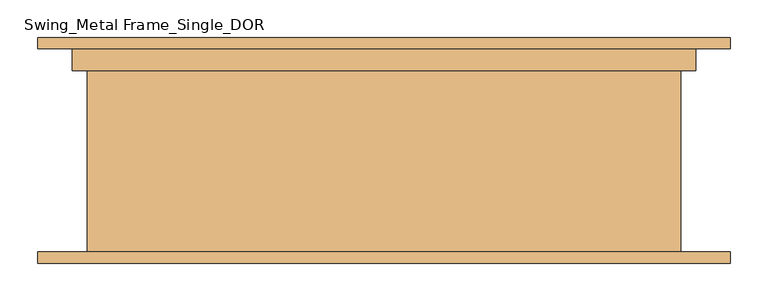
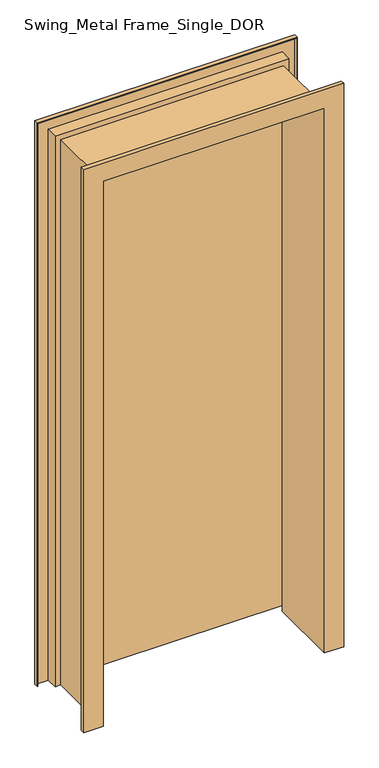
"""IFC4 building model written with IfcOpenShell, lengths in millimetres: door geometry, Swing_Metal Frame_Single_DOR : 2040h x 820 (2110x920 STUD)."""

from ifc_helpers import new_model, si_unit, frame, origin, place, context, project, spatial, polyline, outline, extrude, faceted_brep, source, transform, mapped, element, save


def swing_metal_frame_single_dor_e555ebe5(model_context):
    return source(origin(), model_context, "Body", "SolidModel", [
        extrude(outline(polyline([(410.0, 150.0), (410.0, 110.0), (-410.0, 110.0), (-410.0, 150.0), (410.0, 150.0)])), frame((0.0, 0.0, 20.0), z_axis=(0.0, 0.0, 1.0), x_axis=(1.0, 0.0, 0.0)), (0.0, 0.0, 1.0), 2040.0),
        faceted_brep([(-460.0, -150.0, 0.0), (-460.0, -135.0, 0.0), (-458.0, -135.0, 0.0), (-458.0, -148.0, 0.0), (-394.0, -148.0, 0.0), (-394.0, 106.0, 0.0), (-414.0, 106.0, 0.0), (-414.0, 148.0, 0.0), (-458.0, 148.0, 0.0), (-458.0, 135.0, 0.0), (-460.0, 135.0, 0.0), (-460.0, 150.0, 0.0), (-412.0, 150.0, 0.0), (-412.0, 108.0, 0.0), (-392.0, 108.0, 0.0), (-392.0, -150.0, 0.0), (-460.0, -150.0, 2110.0), (-460.0, -135.0, 2110.0), (460.0, -135.0, 2110.0), (460.0, -135.0, 0.0), (458.0, -135.0, 0.0), (458.0, -135.0, 2108.0), (-458.0, -135.0, 2108.0), (-458.0, -148.0, 2108.0), (458.0, -148.0, 2108.0), (458.0, -148.0, 0.0), (394.0, -148.0, 0.0), (394.0, -148.0, 2044.0), (-394.0, -148.0, 2044.0), (-394.0, 106.0, 2044.0), (394.0, 106.0, 2044.0), (394.0, 106.0, 0.0), (414.0, 106.0, 0.0), (414.0, 106.0, 2064.0), (-414.0, 106.0, 2064.0), (-414.0, 148.0, 2064.0), (414.0, 148.0, 2064.0), (414.0, 148.0, 0.0), (458.0, 148.0, 0.0), (458.0, 148.0, 2108.0), (-458.0, 148.0, 2108.0), (-458.0, 135.0, 2108.0), (458.0, 135.0, 2108.0), (458.0, 135.0, 0.0), (460.0, 135.0, 0.0), (460.0, 135.0, 2110.0), (-460.0, 135.0, 2110.0), (-460.0, 150.0, 2110.0), (460.0, 150.0, 2110.0), (460.0, 150.0, 0.0), (412.0, 150.0, 0.0), (412.0, 150.0, 2062.0), (-412.0, 150.0, 2062.0), (-412.0, 108.0, 2062.0), (412.0, 108.0, 2062.0), (412.0, 108.0, 0.0), (392.0, 108.0, 0.0), (392.0, 108.0, 2042.0), (-392.0, 108.0, 2042.0), (-392.0, -150.0, 2042.0), (392.0, -150.0, 2042.0), (392.0, -150.0, 0.0), (460.0, -150.0, 0.0), (460.0, -150.0, 2110.0)], [[[0, 1, 2, 3, 4, 5, 6, 7, 8, 9, 10, 11, 12, 13, 14, 15]], [[1, 0, 16, 17]], [[2, 1, 17, 18, 19, 20, 21, 22]], [[3, 2, 22, 23]], [[4, 3, 23, 24, 25, 26, 27, 28]], [[5, 4, 28, 29]], [[6, 5, 29, 30, 31, 32, 33, 34]], [[7, 6, 34, 35]], [[8, 7, 35, 36, 37, 38, 39, 40]], [[9, 8, 40, 41]], [[10, 9, 41, 42, 43, 44, 45, 46]], [[11, 10, 46, 47]], [[12, 11, 47, 48, 49, 50, 51, 52]], [[13, 12, 52, 53]], [[14, 13, 53, 54, 55, 56, 57, 58]], [[15, 14, 58, 59]], [[0, 15, 59, 60, 61, 62, 63, 16]], [[18, 63, 62, 19]], [[62, 61, 56, 55, 50, 49, 44, 43, 38, 37, 32, 31, 26, 25, 20, 19]], [[24, 21, 20, 25]], [[30, 27, 26, 31]], [[36, 33, 32, 37]], [[42, 39, 38, 43]], [[48, 45, 44, 49]], [[54, 51, 50, 55]], [[60, 57, 56, 61]], [[17, 16, 63, 18]], [[23, 22, 21, 24]], [[29, 28, 27, 30]], [[35, 34, 33, 36]], [[41, 40, 39, 42]], [[47, 46, 45, 48]], [[53, 52, 51, 54]], [[59, 58, 57, 60]]]),
    ])


if __name__ == "__main__":
    model = new_model("IFC4")
    model_context = context("Model", 3, world=origin())
    ifc_project = project(units=[si_unit("LENGTHUNIT", "METRE", prefix="MILLI")], contexts=[model_context])
    site = spatial("IfcSite", under=ifc_project)
    building = spatial("IfcBuilding", under=site)
    placement = place(None, origin())
    swing_metal_frame_single_dor_shape = swing_metal_frame_single_dor_e555ebe5(model_context)
    element("IfcDoor", 1, ObjectType="Swing_Metal Frame_Single_DOR : 2040h x 820 (2110x920 STUD)", at=placement, inside=building, context=model_context, shape_type="MappedRepresentation", body=[
        mapped(swing_metal_frame_single_dor_shape, transform((0.0, 0.0, 0.0), x_axis=(1.0, 0.0, 0.0), y_axis=(0.0, 1.0, 0.0), z_axis=(0.0, 0.0, 1.0))),
    ])
    save(model, "model.ifc")
